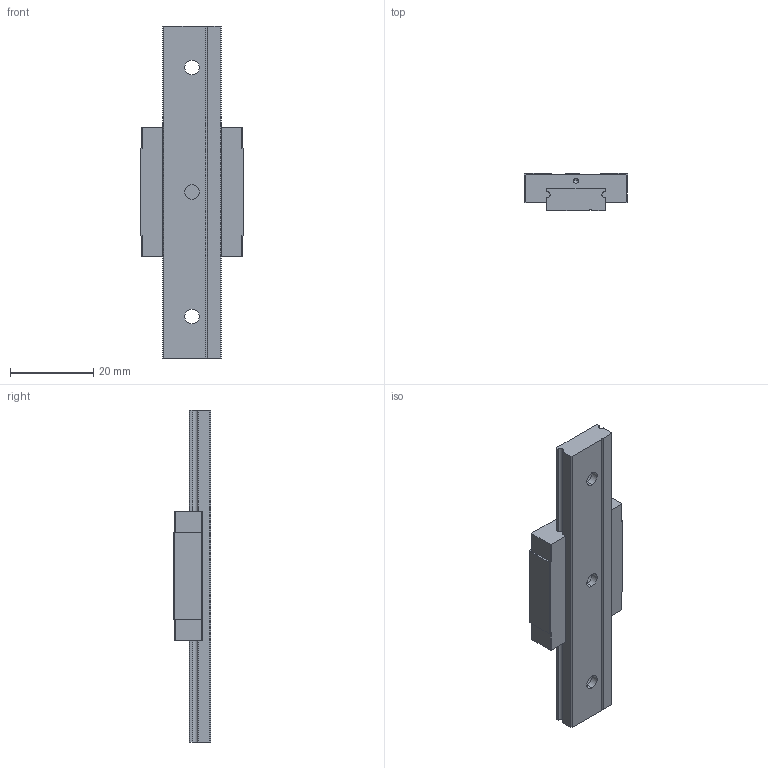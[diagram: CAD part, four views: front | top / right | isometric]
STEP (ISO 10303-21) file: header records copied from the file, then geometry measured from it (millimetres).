
FILE_DESCRIPTION (( 'STEP AP214' ), '1' );
FILE_NAME ('7.1046 Lineaarikelkka MTW7C.STEP', '2026-03-16T07:42:57', ( '' ), ( '' ), 'SwSTEP 2.0', 'SolidWorks 2025', '' );
FILE_SCHEMA (( 'AUTOMOTIVE_DESIGN' ));
Length unit declared in the file: millimetre
Products named in the file (1): 7.1046 Lineaarikelkka MTW7C
Bounding box: 25 x 9 x 80 mm (x, y, z)
Volume: 9171.4 mm3; surface area: 6189.5 mm2
Topology: 2 solids, 2 shells, 200 faces, 534 edges, 346 vertices
Faces by surface type: plane 128, cylinder 33, bspline 27, cone 12
Entity records: 9942 total; most frequent: CARTESIAN_POINT 2892, ORIENTED_EDGE 1044, DIRECTION 882, EDGE_CURVE 522, VECTOR 402, LINE 402, VERTEX_POINT 346, AXIS2_PLACEMENT_3D 240
